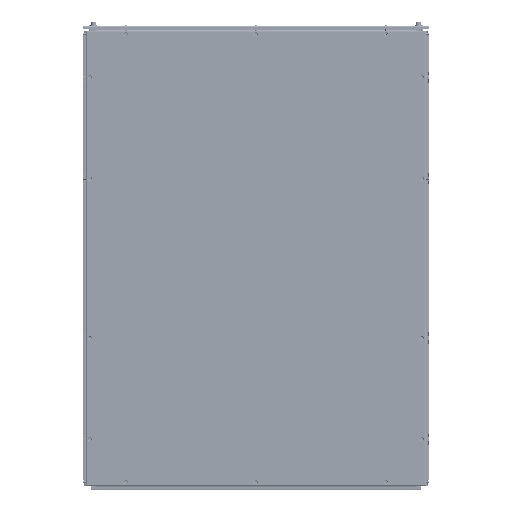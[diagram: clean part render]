
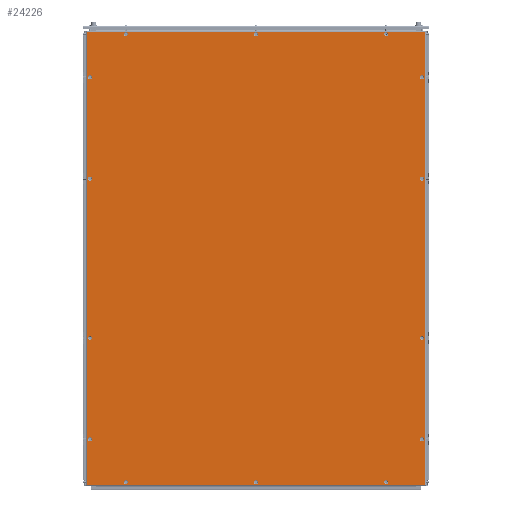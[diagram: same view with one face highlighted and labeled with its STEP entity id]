
A CAD part, left-side view. The second image highlights one B-rep face of the part: STEP entity #24226.
In plain terms, the highlighted planar face has unit normal (-1, 0, 0) as drawn and (1, 0, 0) by its records, which use the part's own axes.
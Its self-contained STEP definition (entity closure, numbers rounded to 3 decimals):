
#24226=ADVANCED_FACE('',(#143219,#143221,#143223,#143225,#143227,#143229,#143231,
#143233,#143235,#143237,#143239,#143241,#143243,#143245,#143247),#143249,.T.);
#143219=FACE_BOUND('',#143220,.T.);
#143220=EDGE_LOOP('',(#356489,#356490,#356491,#356492));
#143221=FACE_BOUND('',#143222,.T.);
#143222=EDGE_LOOP('',(#356493));
#143223=FACE_BOUND('',#143224,.T.);
#143224=EDGE_LOOP('',(#356494));
#143225=FACE_BOUND('',#143226,.T.);
#143226=EDGE_LOOP('',(#356495));
#143227=FACE_BOUND('',#143228,.T.);
#143228=EDGE_LOOP('',(#356496));
#143229=FACE_BOUND('',#143230,.T.);
#143230=EDGE_LOOP('',(#356497));
#143231=FACE_BOUND('',#143232,.T.);
#143232=EDGE_LOOP('',(#356498));
#143233=FACE_BOUND('',#143234,.T.);
#143234=EDGE_LOOP('',(#356499));
#143235=FACE_BOUND('',#143236,.T.);
#143236=EDGE_LOOP('',(#356500));
#143237=FACE_BOUND('',#143238,.T.);
#143238=EDGE_LOOP('',(#356501));
#143239=FACE_BOUND('',#143240,.T.);
#143240=EDGE_LOOP('',(#356502));
#143241=FACE_BOUND('',#143242,.T.);
#143242=EDGE_LOOP('',(#356503));
#143243=FACE_BOUND('',#143244,.T.);
#143244=EDGE_LOOP('',(#356504));
#143245=FACE_BOUND('',#143246,.T.);
#143246=EDGE_LOOP('',(#356505));
#143247=FACE_BOUND('',#143248,.T.);
#143248=EDGE_LOOP('',(#356506));
#143249=PLANE('',#143250);
#143250=AXIS2_PLACEMENT_3D('',#143251,#143252,#143253);
#143251=CARTESIAN_POINT('',(1.5,0.,0.));
#143252=DIRECTION('',(1.,0.,0.));
#143253=DIRECTION('',(0.,1.,0.));
#356489=ORIENTED_EDGE('',*,*,#400166,.T.);
#356490=ORIENTED_EDGE('',*,*,#400172,.T.);
#356491=ORIENTED_EDGE('',*,*,#400170,.T.);
#356492=ORIENTED_EDGE('',*,*,#400168,.T.);
#356493=ORIENTED_EDGE('',*,*,#400187,.T.);
#356494=ORIENTED_EDGE('',*,*,#400188,.T.);
#356495=ORIENTED_EDGE('',*,*,#400189,.T.);
#356496=ORIENTED_EDGE('',*,*,#400190,.T.);
#356497=ORIENTED_EDGE('',*,*,#400191,.T.);
#356498=ORIENTED_EDGE('',*,*,#400192,.T.);
#356499=ORIENTED_EDGE('',*,*,#400193,.T.);
#356500=ORIENTED_EDGE('',*,*,#400194,.T.);
#356501=ORIENTED_EDGE('',*,*,#400195,.T.);
#356502=ORIENTED_EDGE('',*,*,#400196,.T.);
#356503=ORIENTED_EDGE('',*,*,#400197,.T.);
#356504=ORIENTED_EDGE('',*,*,#400198,.T.);
#356505=ORIENTED_EDGE('',*,*,#400199,.T.);
#356506=ORIENTED_EDGE('',*,*,#400200,.T.);
#400166=EDGE_CURVE('',#458886,#458884,#458887,.T.);
#400168=EDGE_CURVE('',#458889,#458886,#458890,.T.);
#400170=EDGE_CURVE('',#458892,#458889,#458893,.T.);
#400172=EDGE_CURVE('',#458884,#458892,#458895,.T.);
#400187=EDGE_CURVE('',#458924,#458924,#458925,.F.);
#400188=EDGE_CURVE('',#458926,#458926,#458927,.F.);
#400189=EDGE_CURVE('',#458928,#458928,#458929,.F.);
#400190=EDGE_CURVE('',#458930,#458930,#458931,.F.);
#400191=EDGE_CURVE('',#458932,#458932,#458933,.F.);
#400192=EDGE_CURVE('',#458934,#458934,#458935,.F.);
#400193=EDGE_CURVE('',#458936,#458936,#458937,.F.);
#400194=EDGE_CURVE('',#458938,#458938,#458939,.F.);
#400195=EDGE_CURVE('',#458940,#458940,#458941,.F.);
#400196=EDGE_CURVE('',#458942,#458942,#458943,.F.);
#400197=EDGE_CURVE('',#458944,#458944,#458945,.F.);
#400198=EDGE_CURVE('',#458946,#458946,#458947,.F.);
#400199=EDGE_CURVE('',#458948,#458948,#458949,.F.);
#400200=EDGE_CURVE('',#458950,#458950,#458951,.T.);
#458884=VERTEX_POINT('',#592163);
#458886=VERTEX_POINT('',#592168);
#458887=LINE('',#592169,#592170);
#458889=VERTEX_POINT('',#592176);
#458890=LINE('',#592177,#592178);
#458892=VERTEX_POINT('',#592184);
#458893=LINE('',#592185,#592186);
#458895=LINE('',#592192,#592193);
#458924=VERTEX_POINT('',#592265);
#458925=CIRCLE('',#592266,6.954);
#458926=VERTEX_POINT('',#592270);
#458927=CIRCLE('',#592271,6.954);
#458928=VERTEX_POINT('',#592275);
#458929=CIRCLE('',#592276,6.954);
#458930=VERTEX_POINT('',#592280);
#458931=CIRCLE('',#592281,6.954);
#458932=VERTEX_POINT('',#592285);
#458933=CIRCLE('',#592286,6.954);
#458934=VERTEX_POINT('',#592290);
#458935=CIRCLE('',#592291,6.954);
#458936=VERTEX_POINT('',#592295);
#458937=CIRCLE('',#592296,6.954);
#458938=VERTEX_POINT('',#592300);
#458939=CIRCLE('',#592301,6.954);
#458940=VERTEX_POINT('',#592305);
#458941=CIRCLE('',#592306,6.954);
#458942=VERTEX_POINT('',#592310);
#458943=CIRCLE('',#592311,6.954);
#458944=VERTEX_POINT('',#592315);
#458945=CIRCLE('',#592316,6.954);
#458946=VERTEX_POINT('',#592320);
#458947=CIRCLE('',#592321,6.954);
#458948=VERTEX_POINT('',#592325);
#458949=CIRCLE('',#592326,6.954);
#458950=VERTEX_POINT('',#592330);
#458951=CIRCLE('',#592331,6.954);
#592163=CARTESIAN_POINT('',(1.5,-583.7,-782.7));
#592168=CARTESIAN_POINT('',(1.5,-583.7,782.7));
#592169=CARTESIAN_POINT('',(1.5,-583.7,782.7));
#592170=VECTOR('',#592171,1.);
#592171=DIRECTION('',(0.,0.,-1.));
#592176=CARTESIAN_POINT('',(1.5,583.7,782.7));
#592177=CARTESIAN_POINT('',(1.5,583.7,782.7));
#592178=VECTOR('',#592179,1.);
#592179=DIRECTION('',(0.,-1.,0.));
#592184=CARTESIAN_POINT('',(1.5,583.7,-782.7));
#592185=CARTESIAN_POINT('',(1.5,583.7,-782.7));
#592186=VECTOR('',#592187,1.);
#592187=DIRECTION('',(0.,0.,1.));
#592192=CARTESIAN_POINT('',(1.5,-583.7,-782.7));
#592193=VECTOR('',#592194,1.);
#592194=DIRECTION('',(0.,1.,0.));
#592265=CARTESIAN_POINT('',(1.5,6.954,-773.5));
#592266=AXIS2_PLACEMENT_3D('',#592267,#592268,#592269);
#592267=CARTESIAN_POINT('',(1.5,0.,-773.5));
#592268=DIRECTION('',(1.,0.,0.));
#592269=DIRECTION('',(0.,1.,0.));
#592270=CARTESIAN_POINT('',(1.5,6.954,773.5));
#592271=AXIS2_PLACEMENT_3D('',#592272,#592273,#592274);
#592272=CARTESIAN_POINT('',(1.5,0.,773.5));
#592273=DIRECTION('',(1.,0.,0.));
#592274=DIRECTION('',(0.,1.,0.));
#592275=CARTESIAN_POINT('',(1.5,456.954,773.5));
#592276=AXIS2_PLACEMENT_3D('',#592277,#592278,#592279);
#592277=CARTESIAN_POINT('',(1.5,450.,773.5));
#592278=DIRECTION('',(1.,0.,0.));
#592279=DIRECTION('',(0.,1.,0.));
#592280=CARTESIAN_POINT('',(1.5,456.954,-773.5));
#592281=AXIS2_PLACEMENT_3D('',#592282,#592283,#592284);
#592282=CARTESIAN_POINT('',(1.5,450.,-773.5));
#592283=DIRECTION('',(1.,0.,0.));
#592284=DIRECTION('',(0.,1.,0.));
#592285=CARTESIAN_POINT('',(1.5,-443.046,773.5));
#592286=AXIS2_PLACEMENT_3D('',#592287,#592288,#592289);
#592287=CARTESIAN_POINT('',(1.5,-450.,773.5));
#592288=DIRECTION('',(1.,0.,0.));
#592289=DIRECTION('',(0.,1.,0.));
#592290=CARTESIAN_POINT('',(1.5,-443.046,-773.5));
#592291=AXIS2_PLACEMENT_3D('',#592292,#592293,#592294);
#592292=CARTESIAN_POINT('',(1.5,-450.,-773.5));
#592293=DIRECTION('',(1.,0.,0.));
#592294=DIRECTION('',(0.,1.,0.));
#592295=CARTESIAN_POINT('',(1.5,580.454,-275.));
#592296=AXIS2_PLACEMENT_3D('',#592297,#592298,#592299);
#592297=CARTESIAN_POINT('',(1.5,573.5,-275.));
#592298=DIRECTION('',(1.,0.,0.));
#592299=DIRECTION('',(0.,1.,0.));
#592300=CARTESIAN_POINT('',(1.5,580.454,275.));
#592301=AXIS2_PLACEMENT_3D('',#592302,#592303,#592304);
#592302=CARTESIAN_POINT('',(1.5,573.5,275.));
#592303=DIRECTION('',(1.,0.,0.));
#592304=DIRECTION('',(0.,1.,0.));
#592305=CARTESIAN_POINT('',(1.5,-566.546,-275.));
#592306=AXIS2_PLACEMENT_3D('',#592307,#592308,#592309);
#592307=CARTESIAN_POINT('',(1.5,-573.5,-275.));
#592308=DIRECTION('',(1.,0.,0.));
#592309=DIRECTION('',(0.,1.,0.));
#592310=CARTESIAN_POINT('',(1.5,-566.546,275.));
#592311=AXIS2_PLACEMENT_3D('',#592312,#592313,#592314);
#592312=CARTESIAN_POINT('',(1.5,-573.5,275.));
#592313=DIRECTION('',(1.,0.,0.));
#592314=DIRECTION('',(0.,1.,0.));
#592315=CARTESIAN_POINT('',(1.5,580.454,625.));
#592316=AXIS2_PLACEMENT_3D('',#592317,#592318,#592319);
#592317=CARTESIAN_POINT('',(1.5,573.5,625.));
#592318=DIRECTION('',(1.,0.,0.));
#592319=DIRECTION('',(0.,1.,0.));
#592320=CARTESIAN_POINT('',(1.5,580.454,-625.));
#592321=AXIS2_PLACEMENT_3D('',#592322,#592323,#592324);
#592322=CARTESIAN_POINT('',(1.5,573.5,-625.));
#592323=DIRECTION('',(1.,0.,0.));
#592324=DIRECTION('',(0.,1.,0.));
#592325=CARTESIAN_POINT('',(1.5,-566.546,-625.));
#592326=AXIS2_PLACEMENT_3D('',#592327,#592328,#592329);
#592327=CARTESIAN_POINT('',(1.5,-573.5,-625.));
#592328=DIRECTION('',(1.,0.,0.));
#592329=DIRECTION('',(0.,1.,0.));
#592330=CARTESIAN_POINT('',(1.5,-566.546,625.));
#592331=AXIS2_PLACEMENT_3D('',#592332,#592333,#592334);
#592332=CARTESIAN_POINT('',(1.5,-573.5,625.));
#592333=DIRECTION('',(-1.,0.,0.));
#592334=DIRECTION('',(0.,1.,0.));
